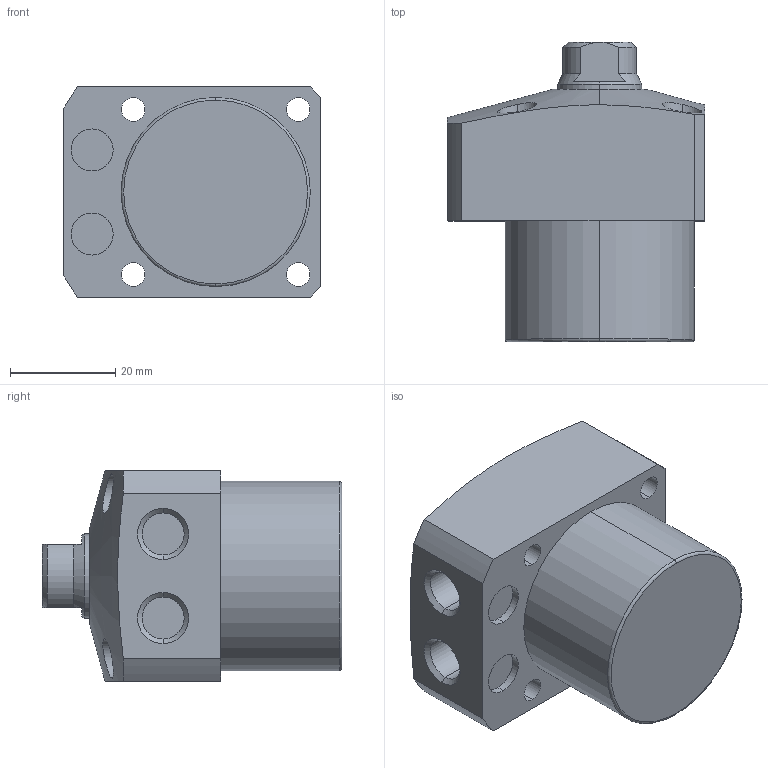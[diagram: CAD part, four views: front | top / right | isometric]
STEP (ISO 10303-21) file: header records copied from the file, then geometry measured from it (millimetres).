
FILE_DESCRIPTION (( 'STEP AP203' ), '1' );
FILE_NAME ('CLL-036CA-015.STEP', '2020-01-03T12:30:16', ( '' ), ( '' ), 'SwSTEP 2.0', 'SolidWorks 2015', '' );
FILE_SCHEMA (( 'CONFIG_CONTROL_DESIGN' ));
Length unit declared in the file: millimetre
Products named in the file (1): CLL-036CA-015
Bounding box: 49 x 57 x 40 mm (x, y, z)
Volume: 64853.6 mm3; surface area: 12776.7 mm2
Topology: 1 solids, 1 shells, 72 faces, 166 edges, 105 vertices
Faces by surface type: cylinder 34, plane 22, cone 14, torus 2
Entity records: 2453 total; most frequent: CARTESIAN_POINT 708, DIRECTION 364, ORIENTED_EDGE 328, EDGE_CURVE 164, AXIS2_PLACEMENT_3D 151, VERTEX_POINT 105, EDGE_LOOP 91, CIRCLE 78
